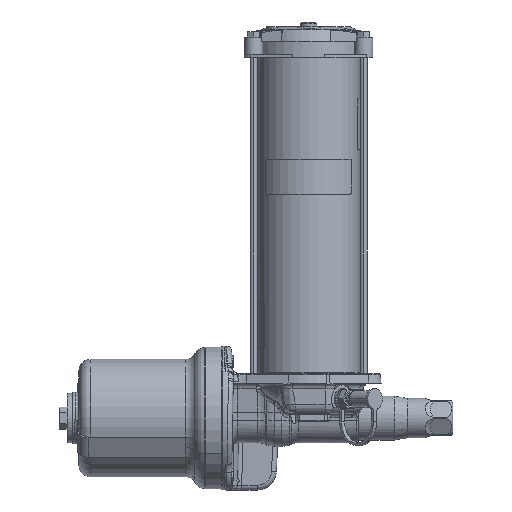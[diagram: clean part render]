
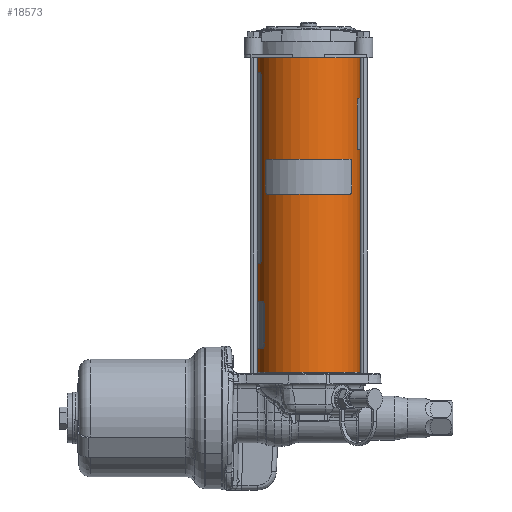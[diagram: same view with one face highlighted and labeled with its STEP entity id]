
A CAD part, top view. The second image highlights one B-rep face of the part: STEP entity #18573.
In plain terms, the highlighted cylindrical face has radius 51.397 mm (diameter 102.794 mm), a partial arc.
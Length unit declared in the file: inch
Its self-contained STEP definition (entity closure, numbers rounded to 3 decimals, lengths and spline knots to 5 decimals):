
#18522=CARTESIAN_POINT('',(3.44,14.56138,0.5));
#18523=DIRECTION('',(0.,1.,0.));
#18524=DIRECTION('',(-1.,0.,0.));
#18525=AXIS2_PLACEMENT_3D('',#18522,#18523,#18524);
#18527=DIRECTION('',(0.,-1.,0.));
#18528=VECTOR('',#18527,12.89075);
#18529=CARTESIAN_POINT('',(5.4635,14.56138,0.5));
#18530=LINE('',#18529,#18528);
#18531=CARTESIAN_POINT('',(3.44,1.67063,0.5));
#18532=DIRECTION('',(0.,-1.,0.));
#18533=DIRECTION('',(1.,0.,0.));
#18534=AXIS2_PLACEMENT_3D('',#18531,#18532,#18533);
#18541=DIRECTION('',(0.,-1.,0.));
#18542=VECTOR('',#18541,12.89075);
#18543=CARTESIAN_POINT('',(1.4165,14.56138,0.5));
#18544=LINE('',#18543,#18542);
#18550=CARTESIAN_POINT('',(5.4635,14.56138,0.5));
#18551=CARTESIAN_POINT('',(1.4165,14.56138,0.5));
#18552=VERTEX_POINT('',#18550);
#18553=VERTEX_POINT('',#18551);
#18554=CARTESIAN_POINT('',(5.4635,1.67063,0.5));
#18555=CARTESIAN_POINT('',(1.4165,1.67063,0.5));
#18556=VERTEX_POINT('',#18554);
#18557=VERTEX_POINT('',#18555);
#18558=CARTESIAN_POINT('',(3.44,14.589,0.5));
#18559=DIRECTION('',(0.,-1.,0.));
#18560=DIRECTION('',(1.,0.,0.));
#18561=AXIS2_PLACEMENT_3D('',#18558,#18559,#18560);
#18562=CYLINDRICAL_SURFACE('',#18561,2.0235);
#18564=ORIENTED_EDGE('',*,*,#18563,.T.);
#18566=ORIENTED_EDGE('',*,*,#18565,.T.);
#18568=ORIENTED_EDGE('',*,*,#18567,.T.);
#18570=ORIENTED_EDGE('',*,*,#18569,.F.);
#18571=EDGE_LOOP('',(#18564,#18566,#18568,#18570));
#18572=FACE_OUTER_BOUND('',#18571,.F.);
#18573=ADVANCED_FACE('',(#18572),#18562,.T.);
#18526=CIRCLE('',#18525,2.0235);
#18535=CIRCLE('',#18534,2.0235);
#18563=EDGE_CURVE('',#18553,#18552,#18526,.T.);
#18565=EDGE_CURVE('',#18552,#18556,#18530,.T.);
#18567=EDGE_CURVE('',#18556,#18557,#18535,.T.);
#18569=EDGE_CURVE('',#18553,#18557,#18544,.T.);
